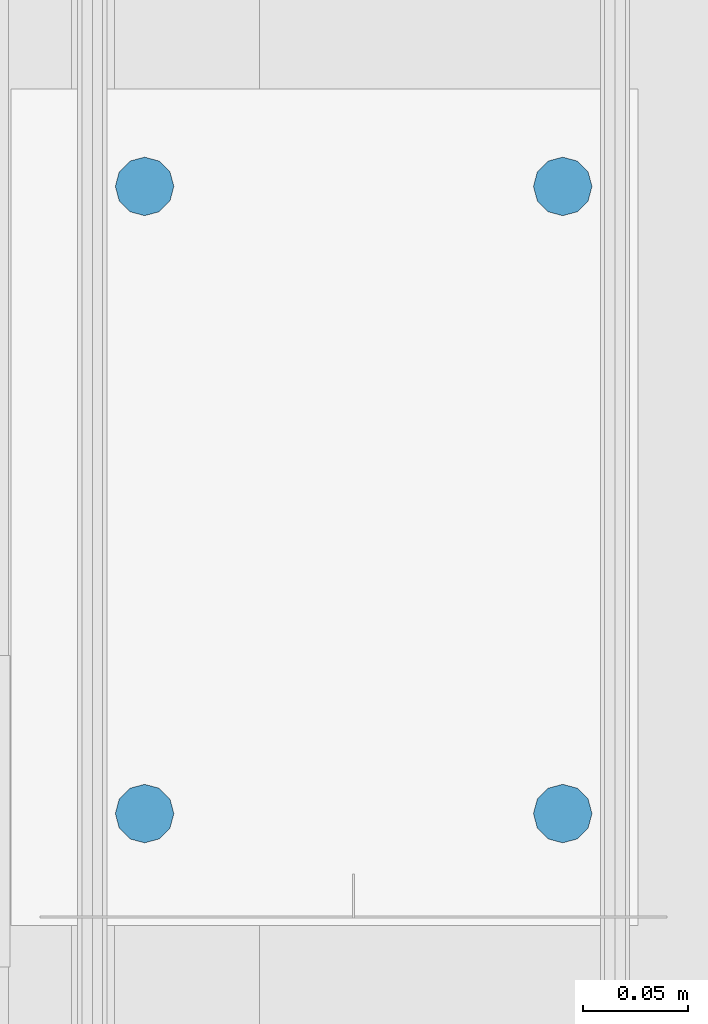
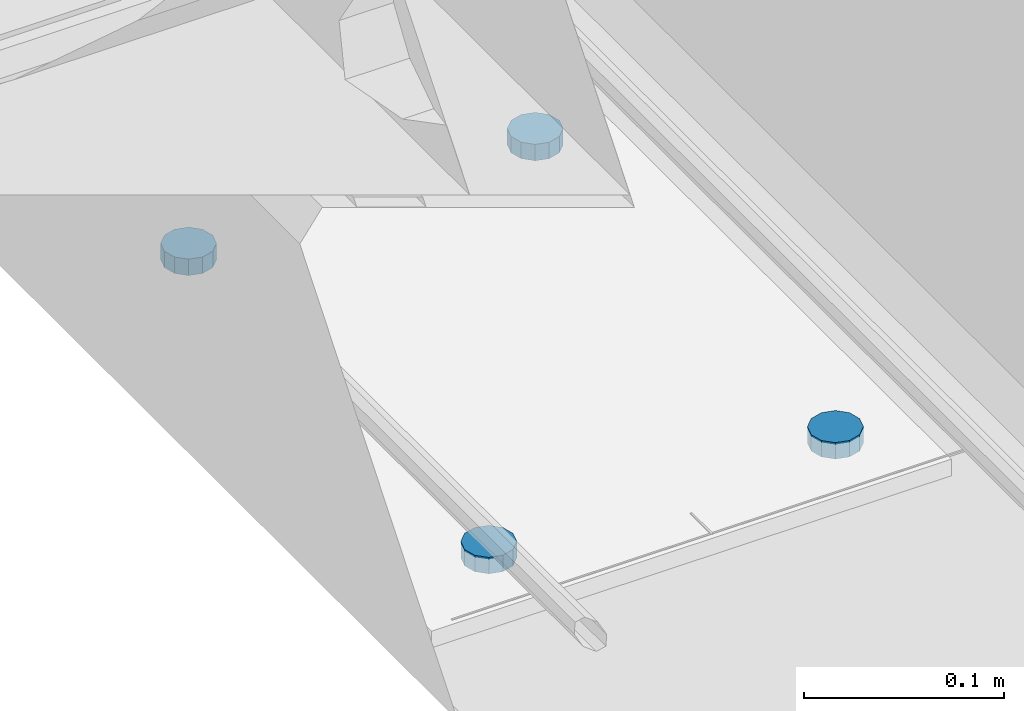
# One storey, part 6 of 230: 4 columns.
"""IFC4X3_ADD2 building model written with IfcOpenShell, lengths in millimetres."""

from ifc_helpers import new_model, si_unit, direction, frame, origin_with_axes, place, context, subcontext, project, spatial, polyline, outline, extrude, element, save


model = new_model("IFC4X3_ADD2")

# Units and contexts
model_context = context("Model", 3, precision=1e-05, world=origin_with_axes(), true_north=direction((0.0, 1.0)))
body_context = subcontext(model_context, "Body", "Model", "MODEL_VIEW")
ifc_project = project(units=[si_unit("LENGTHUNIT", "METRE", prefix="MILLI"), si_unit("AREAUNIT", "SQUARE_METRE"), si_unit("VOLUMEUNIT", "CUBIC_METRE"), si_unit("PLANEANGLEUNIT", "RADIAN"), si_unit("TIMEUNIT", "SECOND"), si_unit("MASSUNIT", "GRAM")], contexts=[model_context])

# Site, building, storey
site_placement = place(None, origin_with_axes())
site = spatial("IfcSite", under=ifc_project, at=site_placement, Name="Site", CompositionType="ELEMENT")
building_placement = place(site_placement, origin_with_axes())
building = spatial("IfcBuilding", under=site, at=building_placement, Name="IFC Building Story")
storey_placement = place(building_placement, origin_with_axes())
storey = spatial("IfcBuildingStorey", under=building, at=storey_placement, Name="ETAGE 00 (0)", Elevation=0.0)

# Columns
column_1_placement = place(storey_placement, frame((48191.56129146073, -12534.999771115, 3770.0), z_axis=(0.0, 0.0, 1.0), x_axis=(0.7071067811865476, -0.7071067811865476, 0.0)))
element("IfcColumn", 1, at=column_1_placement, inside=storey, Name="ZW9", ObjectType="D28", context=body_context, shape_type="SweptSolid", body=[
    extrude(outline(polyline([(-9.899494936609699, 9.899494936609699), (-3.623466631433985, 13.52296156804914), (3.623466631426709, 13.52296156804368), (9.899494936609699, 9.899494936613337), (13.52296156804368, 3.623466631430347), (13.52296156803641, -3.623466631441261), (9.899494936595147, -9.899494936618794), (3.623466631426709, -13.52296156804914), (-3.623466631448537, -13.52296156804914), (-9.899494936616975, -9.899494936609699), (-13.52296156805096, -3.623466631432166), (-13.52296156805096, 3.623466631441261), (-9.899494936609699, 9.899494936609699)])), frame((13.52296156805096, 13.52296156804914, 0.0), z_axis=(0.0, 0.0, 1.0), x_axis=(1.0, 0.0, 0.0)), (0.0, 0.0, 1.0), 10.0),
])
column_2_placement = place(storey_placement, frame((48410.68564711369, -12554.12412676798, 3770.0), z_axis=(0.0, 0.0, 1.0), x_axis=(0.7071067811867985, 0.7071067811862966, 0.0)))
element("IfcColumn", 2, at=column_2_placement, inside=storey, Name="ZW9", ObjectType="D28", context=body_context, shape_type="SweptSolid", body=[
    extrude(outline(polyline([(9.899494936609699, 9.899494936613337), (13.52296156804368, 3.623466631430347), (13.52296156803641, -3.623466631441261), (9.899494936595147, -9.899494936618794), (3.623466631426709, -13.52296156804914), (-3.623466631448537, -13.52296156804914), (-9.899494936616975, -9.899494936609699), (-13.52296156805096, -3.623466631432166), (-13.52296156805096, 3.623466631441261), (-9.899494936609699, 9.899494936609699), (-3.623466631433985, 13.52296156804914), (3.623466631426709, 13.52296156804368), (9.899494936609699, 9.899494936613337)])), frame((13.52296156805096, 13.52296156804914, 0.0), z_axis=(0.0, 0.0, 1.0), x_axis=(1.0, 0.0, 0.0)), (0.0, 0.0, 1.0), 10.0),
])
column_3_placement = place(storey_placement, frame((48194.12346928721, -12225.43759328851, 3770.0), z_axis=(0.0, 0.0, 1.0), x_axis=(0.2588190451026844, -0.9659258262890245, 0.0)))
element("IfcColumn", 3, at=column_3_placement, inside=storey, Name="ZW9", ObjectType="D28", context=body_context, shape_type="SweptSolid", body=[
    extrude(outline(polyline([(-13.52296156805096, 3.623466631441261), (-9.899494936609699, 9.899494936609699), (-3.623466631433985, 13.52296156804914), (3.623466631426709, 13.52296156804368), (9.899494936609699, 9.899494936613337), (13.52296156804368, 3.623466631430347), (13.52296156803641, -3.623466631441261), (9.899494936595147, -9.899494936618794), (3.623466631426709, -13.52296156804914), (-3.623466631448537, -13.52296156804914), (-9.899494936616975, -9.899494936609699), (-13.52296156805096, -3.623466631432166), (-13.52296156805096, 3.623466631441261)])), frame((13.52296156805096, 13.52296156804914, 0.0), z_axis=(0.0, 0.0, 1.0), x_axis=(1.0, 0.0, 0.0)), (0.0, 0.0, 1.0), 10.0),
])
column_4_placement = place(storey_placement, frame((48410.68564711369, -12254.12412676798, 3770.0), z_axis=(0.0, 0.0, 1.0), x_axis=(0.7071067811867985, 0.7071067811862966, 0.0)))
element("IfcColumn", 4, at=column_4_placement, inside=storey, Name="ZW9", ObjectType="D28", context=body_context, shape_type="SweptSolid", body=[
    extrude(outline(polyline([(9.899494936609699, 9.899494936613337), (13.52296156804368, 3.623466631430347), (13.52296156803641, -3.623466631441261), (9.899494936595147, -9.899494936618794), (3.623466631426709, -13.52296156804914), (-3.623466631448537, -13.52296156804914), (-9.899494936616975, -9.899494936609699), (-13.52296156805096, -3.623466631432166), (-13.52296156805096, 3.623466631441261), (-9.899494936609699, 9.899494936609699), (-3.623466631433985, 13.52296156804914), (3.623466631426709, 13.52296156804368), (9.899494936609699, 9.899494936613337)])), frame((13.52296156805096, 13.52296156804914, 0.0), z_axis=(0.0, 0.0, 1.0), x_axis=(1.0, 0.0, 0.0)), (0.0, 0.0, 1.0), 10.0),
])

save(model, "model.ifc")
